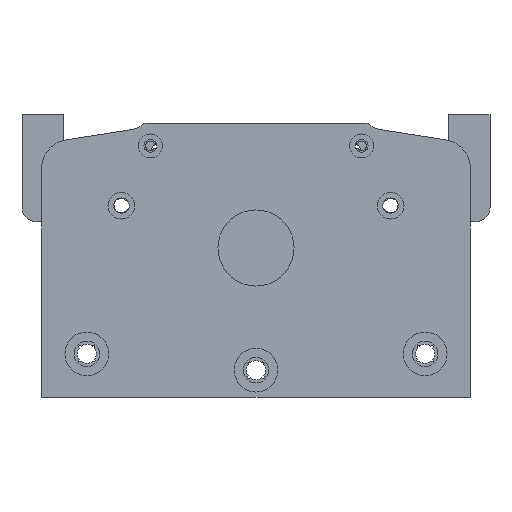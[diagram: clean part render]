
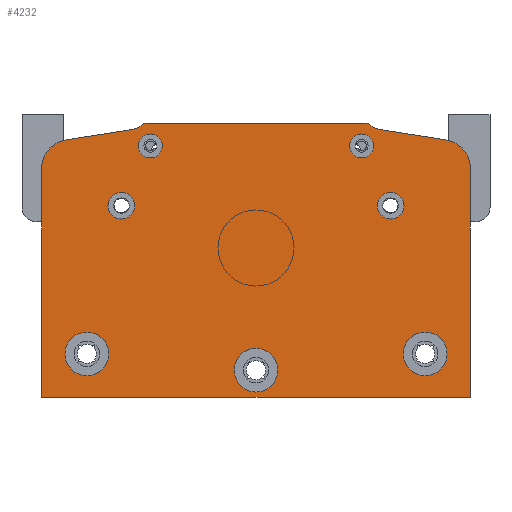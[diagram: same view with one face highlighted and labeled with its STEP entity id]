
A CAD part, left-side view. The second image highlights one B-rep face of the part: STEP entity #4232.
In plain terms, the highlighted planar face has unit normal (-1, 0, 0).
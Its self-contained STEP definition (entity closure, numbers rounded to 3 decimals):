
#363=LINE('',#24195,#1749);
#367=LINE('',#24204,#1753);
#380=LINE('',#24264,#1766);
#382=LINE('',#24282,#1768);
#383=LINE('',#24284,#1769);
#384=LINE('',#24294,#1770);
#1749=VECTOR('',#19567,1.);
#1753=VECTOR('',#19573,1.);
#1766=VECTOR('',#19624,1.);
#1768=VECTOR('',#19642,1.);
#1769=VECTOR('',#19643,1.);
#1770=VECTOR('',#19654,1.);
#4232=ADVANCED_FACE('',(#5834,#5835,#5836,#5837,#5838,#5839,#5840,#5841),
#5004,.T.);
#5004=PLANE('',#17039);
#5834=FACE_BOUND('',#6739,.T.);
#5835=FACE_BOUND('',#6740,.T.);
#5836=FACE_BOUND('',#6741,.T.);
#5837=FACE_BOUND('',#6742,.T.);
#5838=FACE_BOUND('',#6743,.T.);
#5839=FACE_BOUND('',#6744,.T.);
#5840=FACE_BOUND('',#6745,.T.);
#5841=FACE_BOUND('',#6746,.T.);
#6739=EDGE_LOOP('',(#8746));
#6740=EDGE_LOOP('',(#8747));
#6741=EDGE_LOOP('',(#8748));
#6742=EDGE_LOOP('',(#8749));
#6743=EDGE_LOOP('',(#8750));
#6744=EDGE_LOOP('',(#8751));
#6745=EDGE_LOOP('',(#8752));
#6746=EDGE_LOOP('',(#8753,#8754,#8755,#8756,#8757,#8758,#8759,#8760,#8761,
#8762,#8763,#8764));
#8746=ORIENTED_EDGE('',*,*,#14067,.F.);
#8747=ORIENTED_EDGE('',*,*,#14068,.F.);
#8748=ORIENTED_EDGE('',*,*,#14069,.F.);
#8749=ORIENTED_EDGE('',*,*,#14070,.F.);
#8750=ORIENTED_EDGE('',*,*,#14071,.F.);
#8751=ORIENTED_EDGE('',*,*,#14072,.F.);
#8752=ORIENTED_EDGE('',*,*,#14073,.F.);
#8753=ORIENTED_EDGE('',*,*,#14074,.F.);
#8754=ORIENTED_EDGE('',*,*,#14065,.F.);
#8755=ORIENTED_EDGE('',*,*,#14075,.T.);
#8756=ORIENTED_EDGE('',*,*,#14076,.F.);
#8757=ORIENTED_EDGE('',*,*,#14031,.F.);
#8758=ORIENTED_EDGE('',*,*,#14077,.F.);
#8759=ORIENTED_EDGE('',*,*,#14078,.F.);
#8760=ORIENTED_EDGE('',*,*,#14035,.F.);
#8761=ORIENTED_EDGE('',*,*,#14079,.T.);
#8762=ORIENTED_EDGE('',*,*,#14080,.F.);
#8763=ORIENTED_EDGE('',*,*,#14081,.F.);
#8764=ORIENTED_EDGE('',*,*,#14082,.F.);
#12348=VERTEX_POINT('',#24196);
#12349=VERTEX_POINT('',#24197);
#12352=VERTEX_POINT('',#24205);
#12353=VERTEX_POINT('',#24206);
#12379=VERTEX_POINT('',#24263);
#12380=VERTEX_POINT('',#24265);
#12381=VERTEX_POINT('',#24269);
#12382=VERTEX_POINT('',#24271);
#12383=VERTEX_POINT('',#24273);
#12384=VERTEX_POINT('',#24275);
#12385=VERTEX_POINT('',#24277);
#12386=VERTEX_POINT('',#24279);
#12387=VERTEX_POINT('',#24281);
#12388=VERTEX_POINT('',#24283);
#12389=VERTEX_POINT('',#24285);
#12390=VERTEX_POINT('',#24288);
#12391=VERTEX_POINT('',#24291);
#12392=VERTEX_POINT('',#24293);
#12393=VERTEX_POINT('',#24295);
#14031=EDGE_CURVE('',#12348,#12349,#363,.T.);
#14035=EDGE_CURVE('',#12352,#12353,#367,.T.);
#14065=EDGE_CURVE('',#12379,#12380,#380,.T.);
#14067=EDGE_CURVE('',#12381,#12381,#15953,.T.);
#14068=EDGE_CURVE('',#12382,#12382,#15954,.T.);
#14069=EDGE_CURVE('',#12383,#12383,#15955,.T.);
#14070=EDGE_CURVE('',#12384,#12384,#15956,.T.);
#14071=EDGE_CURVE('',#12385,#12385,#15957,.T.);
#14072=EDGE_CURVE('',#12386,#12386,#15958,.T.);
#14073=EDGE_CURVE('',#12387,#12387,#15959,.T.);
#14074=EDGE_CURVE('',#12380,#12388,#382,.T.);
#14075=EDGE_CURVE('',#12379,#12389,#383,.T.);
#14076=EDGE_CURVE('',#12349,#12389,#15960,.T.);
#14077=EDGE_CURVE('',#12390,#12348,#15961,.T.);
#14078=EDGE_CURVE('',#12353,#12390,#15962,.T.);
#14079=EDGE_CURVE('',#12352,#12391,#15963,.T.);
#14080=EDGE_CURVE('',#12392,#12391,#15964,.T.);
#14081=EDGE_CURVE('',#12393,#12392,#384,.T.);
#14082=EDGE_CURVE('',#12388,#12393,#15965,.T.);
#15953=CIRCLE('',#17026,4.25);
#15954=CIRCLE('',#17027,4.25);
#15955=CIRCLE('',#17028,4.75);
#15956=CIRCLE('',#17029,4.75);
#15957=CIRCLE('',#17030,7.75);
#15958=CIRCLE('',#17031,7.75);
#15959=CIRCLE('',#17032,7.75);
#15960=CIRCLE('',#17033,10.);
#15961=CIRCLE('',#17034,6.);
#15962=CIRCLE('',#17035,2.5);
#15963=CIRCLE('',#17036,2.5);
#15964=CIRCLE('',#17037,6.);
#15965=CIRCLE('',#17038,10.);
#17026=AXIS2_PLACEMENT_3D('',#24268,#19628,#19629);
#17027=AXIS2_PLACEMENT_3D('',#24270,#19630,#19631);
#17028=AXIS2_PLACEMENT_3D('',#24272,#19632,#19633);
#17029=AXIS2_PLACEMENT_3D('',#24274,#19634,#19635);
#17030=AXIS2_PLACEMENT_3D('',#24276,#19636,#19637);
#17031=AXIS2_PLACEMENT_3D('',#24278,#19638,#19639);
#17032=AXIS2_PLACEMENT_3D('',#24280,#19640,#19641);
#17033=AXIS2_PLACEMENT_3D('',#24286,#19644,#19645);
#17034=AXIS2_PLACEMENT_3D('',#24287,#19646,#19647);
#17035=AXIS2_PLACEMENT_3D('',#24289,#19648,#19649);
#17036=AXIS2_PLACEMENT_3D('',#24290,#19650,#19651);
#17037=AXIS2_PLACEMENT_3D('',#24292,#19652,#19653);
#17038=AXIS2_PLACEMENT_3D('',#24296,#19655,#19656);
#17039=AXIS2_PLACEMENT_3D('',#24297,#19657,#19658);
#19567=DIRECTION('',(0.,-0.988,-0.156));
#19573=DIRECTION('',(0.,-1.,0.));
#19624=DIRECTION('',(0.,1.,0.));
#19628=DIRECTION('',(-1.,0.,0.));
#19629=DIRECTION('',(0.,0.,1.));
#19630=DIRECTION('',(-1.,0.,0.));
#19631=DIRECTION('',(0.,0.,1.));
#19632=DIRECTION('',(-1.,0.,0.));
#19633=DIRECTION('',(0.,0.,1.));
#19634=DIRECTION('',(-1.,0.,0.));
#19635=DIRECTION('',(0.,0.,1.));
#19636=DIRECTION('',(-1.,0.,0.));
#19637=DIRECTION('',(0.,0.,1.));
#19638=DIRECTION('',(-1.,0.,0.));
#19639=DIRECTION('',(0.,0.,1.));
#19640=DIRECTION('',(-1.,0.,0.));
#19641=DIRECTION('',(0.,0.,1.));
#19642=DIRECTION('',(0.,0.,1.));
#19643=DIRECTION('',(0.,0.,1.));
#19644=DIRECTION('',(1.,0.,0.));
#19645=DIRECTION('',(0.,0.,-1.));
#19646=DIRECTION('',(-1.,0.,0.));
#19647=DIRECTION('',(0.,0.,-1.));
#19648=DIRECTION('',(1.,0.,0.));
#19649=DIRECTION('',(0.,0.,-1.));
#19650=DIRECTION('',(-1.,0.,0.));
#19651=DIRECTION('',(0.,0.,-1.));
#19652=DIRECTION('',(-1.,0.,0.));
#19653=DIRECTION('',(0.,0.,-1.));
#19654=DIRECTION('',(0.,-0.988,0.156));
#19655=DIRECTION('',(1.,0.,0.));
#19656=DIRECTION('',(0.,0.,-1.));
#19657=DIRECTION('',(-1.,0.,0.));
#19658=DIRECTION('',(0.,0.,-1.));
#24195=CARTESIAN_POINT('',(534.416,488.321,381.4));
#24196=CARTESIAN_POINT('',(534.416,462.124,377.251));
#24197=CARTESIAN_POINT('',(534.416,438.369,373.488));
#24204=CARTESIAN_POINT('',(534.416,505.933,379.4));
#24205=CARTESIAN_POINT('',(534.416,544.949,379.4));
#24206=CARTESIAN_POINT('',(534.416,466.917,379.4));
#24263=CARTESIAN_POINT('',(534.416,429.933,282.2));
#24264=CARTESIAN_POINT('',(534.416,505.933,282.2));
#24265=CARTESIAN_POINT('',(534.416,581.933,282.2));
#24268=CARTESIAN_POINT('',(534.416,543.433,371.4));
#24269=CARTESIAN_POINT('',(534.416,543.433,375.65));
#24270=CARTESIAN_POINT('',(534.416,468.433,371.4));
#24271=CARTESIAN_POINT('',(534.416,468.433,375.65));
#24272=CARTESIAN_POINT('',(534.416,553.683,350.2));
#24273=CARTESIAN_POINT('',(534.416,553.683,354.95));
#24274=CARTESIAN_POINT('',(534.416,458.183,350.2));
#24275=CARTESIAN_POINT('',(534.416,458.183,354.95));
#24276=CARTESIAN_POINT('',(534.416,565.933,297.626));
#24277=CARTESIAN_POINT('',(534.416,565.933,305.376));
#24278=CARTESIAN_POINT('',(534.416,505.933,291.85));
#24279=CARTESIAN_POINT('',(534.416,505.933,299.6));
#24280=CARTESIAN_POINT('',(534.416,445.933,297.626));
#24281=CARTESIAN_POINT('',(534.416,445.933,305.376));
#24282=CARTESIAN_POINT('',(534.416,581.933,270.2));
#24283=CARTESIAN_POINT('',(534.416,581.933,363.611));
#24284=CARTESIAN_POINT('',(534.416,429.933,270.2));
#24285=CARTESIAN_POINT('',(534.416,429.933,363.611));
#24286=CARTESIAN_POINT('',(534.416,439.933,363.611));
#24287=CARTESIAN_POINT('',(534.416,461.185,383.177));
#24288=CARTESIAN_POINT('',(534.416,465.231,378.746));
#24289=CARTESIAN_POINT('',(534.416,466.917,376.9));
#24290=CARTESIAN_POINT('',(534.416,544.949,376.9));
#24291=CARTESIAN_POINT('',(534.416,546.635,378.746));
#24292=CARTESIAN_POINT('',(534.416,550.681,383.177));
#24293=CARTESIAN_POINT('',(534.416,549.742,377.251));
#24294=CARTESIAN_POINT('',(534.416,523.545,381.4));
#24295=CARTESIAN_POINT('',(534.416,573.497,373.488));
#24296=CARTESIAN_POINT('',(534.416,571.933,363.611));
#24297=CARTESIAN_POINT('',(534.416,505.933,270.2));
